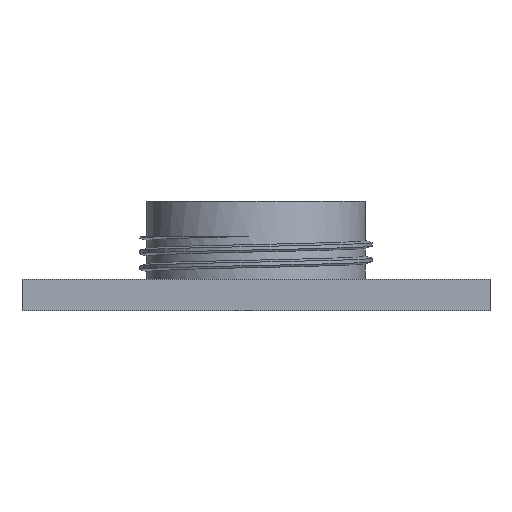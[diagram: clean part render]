
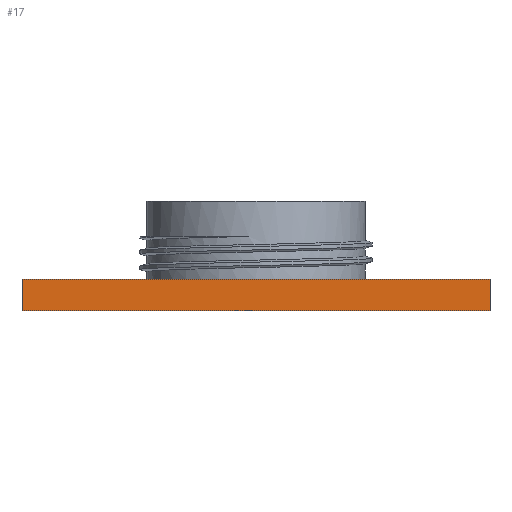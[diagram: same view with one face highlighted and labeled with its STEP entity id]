
A CAD part, left-side view. The second image highlights one B-rep face of the part: STEP entity #17.
In plain terms, the highlighted planar face has unit normal (-1, 0, 0).
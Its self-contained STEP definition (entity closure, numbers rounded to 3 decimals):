
#17 = ADVANCED_FACE('',(#18),#32,.F.);
#18 = FACE_BOUND('',#19,.F.);
#19 = EDGE_LOOP('',(#20,#55,#83,#111));
#20 = ORIENTED_EDGE('',*,*,#21,.F.);
#21 = EDGE_CURVE('',#22,#24,#26,.T.);
#22 = VERTEX_POINT('',#23);
#23 = CARTESIAN_POINT('',(-30.,-30.,0.));
#24 = VERTEX_POINT('',#25);
#25 = CARTESIAN_POINT('',(-30.,-30.,4.));
#26 = SURFACE_CURVE('',#27,(#31,#43),.PCURVE_S1.);
#27 = LINE('',#28,#29);
#28 = CARTESIAN_POINT('',(-30.,-30.,0.));
#29 = VECTOR('',#30,1.);
#30 = DIRECTION('',(0.,0.,1.));
#31 = PCURVE('',#32,#37);
#32 = PLANE('',#33);
#33 = AXIS2_PLACEMENT_3D('',#34,#35,#36);
#34 = CARTESIAN_POINT('',(-30.,-30.,0.));
#35 = DIRECTION('',(1.,0.,0.));
#36 = DIRECTION('',(0.,0.,1.));
#37 = DEFINITIONAL_REPRESENTATION('',(#38),#42);
#38 = LINE('',#39,#40);
#39 = CARTESIAN_POINT('',(0.,0.));
#40 = VECTOR('',#41,1.);
#41 = DIRECTION('',(1.,0.));
#42 = ( GEOMETRIC_REPRESENTATION_CONTEXT(2) 
PARAMETRIC_REPRESENTATION_CONTEXT() REPRESENTATION_CONTEXT('2D SPACE',''
  ) );
#43 = PCURVE('',#44,#49);
#44 = PLANE('',#45);
#45 = AXIS2_PLACEMENT_3D('',#46,#47,#48);
#46 = CARTESIAN_POINT('',(-30.,-30.,0.));
#47 = DIRECTION('',(0.,1.,0.));
#48 = DIRECTION('',(0.,0.,1.));
#49 = DEFINITIONAL_REPRESENTATION('',(#50),#54);
#50 = LINE('',#51,#52);
#51 = CARTESIAN_POINT('',(0.,0.));
#52 = VECTOR('',#53,1.);
#53 = DIRECTION('',(1.,0.));
#54 = ( GEOMETRIC_REPRESENTATION_CONTEXT(2) 
PARAMETRIC_REPRESENTATION_CONTEXT() REPRESENTATION_CONTEXT('2D SPACE',''
  ) );
#55 = ORIENTED_EDGE('',*,*,#56,.T.);
#56 = EDGE_CURVE('',#22,#57,#59,.T.);
#57 = VERTEX_POINT('',#58);
#58 = CARTESIAN_POINT('',(-30.,30.,0.));
#59 = SURFACE_CURVE('',#60,(#64,#71),.PCURVE_S1.);
#60 = LINE('',#61,#62);
#61 = CARTESIAN_POINT('',(-30.,-30.,0.));
#62 = VECTOR('',#63,1.);
#63 = DIRECTION('',(0.,1.,0.));
#64 = PCURVE('',#32,#65);
#65 = DEFINITIONAL_REPRESENTATION('',(#66),#70);
#66 = LINE('',#67,#68);
#67 = CARTESIAN_POINT('',(0.,0.));
#68 = VECTOR('',#69,1.);
#69 = DIRECTION('',(0.,-1.));
#70 = ( GEOMETRIC_REPRESENTATION_CONTEXT(2) 
PARAMETRIC_REPRESENTATION_CONTEXT() REPRESENTATION_CONTEXT('2D SPACE',''
  ) );
#71 = PCURVE('',#72,#77);
#72 = PLANE('',#73);
#73 = AXIS2_PLACEMENT_3D('',#74,#75,#76);
#74 = CARTESIAN_POINT('',(-30.,-30.,0.));
#75 = DIRECTION('',(0.,0.,1.));
#76 = DIRECTION('',(1.,0.,0.));
#77 = DEFINITIONAL_REPRESENTATION('',(#78),#82);
#78 = LINE('',#79,#80);
#79 = CARTESIAN_POINT('',(0.,0.));
#80 = VECTOR('',#81,1.);
#81 = DIRECTION('',(0.,1.));
#82 = ( GEOMETRIC_REPRESENTATION_CONTEXT(2) 
PARAMETRIC_REPRESENTATION_CONTEXT() REPRESENTATION_CONTEXT('2D SPACE',''
  ) );
#83 = ORIENTED_EDGE('',*,*,#84,.T.);
#84 = EDGE_CURVE('',#57,#85,#87,.T.);
#85 = VERTEX_POINT('',#86);
#86 = CARTESIAN_POINT('',(-30.,30.,4.));
#87 = SURFACE_CURVE('',#88,(#92,#99),.PCURVE_S1.);
#88 = LINE('',#89,#90);
#89 = CARTESIAN_POINT('',(-30.,30.,0.));
#90 = VECTOR('',#91,1.);
#91 = DIRECTION('',(0.,0.,1.));
#92 = PCURVE('',#32,#93);
#93 = DEFINITIONAL_REPRESENTATION('',(#94),#98);
#94 = LINE('',#95,#96);
#95 = CARTESIAN_POINT('',(0.,-60.));
#96 = VECTOR('',#97,1.);
#97 = DIRECTION('',(1.,0.));
#98 = ( GEOMETRIC_REPRESENTATION_CONTEXT(2) 
PARAMETRIC_REPRESENTATION_CONTEXT() REPRESENTATION_CONTEXT('2D SPACE',''
  ) );
#99 = PCURVE('',#100,#105);
#100 = PLANE('',#101);
#101 = AXIS2_PLACEMENT_3D('',#102,#103,#104);
#102 = CARTESIAN_POINT('',(-30.,30.,0.));
#103 = DIRECTION('',(0.,1.,0.));
#104 = DIRECTION('',(0.,0.,1.));
#105 = DEFINITIONAL_REPRESENTATION('',(#106),#110);
#106 = LINE('',#107,#108);
#107 = CARTESIAN_POINT('',(0.,0.));
#108 = VECTOR('',#109,1.);
#109 = DIRECTION('',(1.,0.));
#110 = ( GEOMETRIC_REPRESENTATION_CONTEXT(2) 
PARAMETRIC_REPRESENTATION_CONTEXT() REPRESENTATION_CONTEXT('2D SPACE',''
  ) );
#111 = ORIENTED_EDGE('',*,*,#112,.F.);
#112 = EDGE_CURVE('',#24,#85,#113,.T.);
#113 = SURFACE_CURVE('',#114,(#118,#125),.PCURVE_S1.);
#114 = LINE('',#115,#116);
#115 = CARTESIAN_POINT('',(-30.,-30.,4.));
#116 = VECTOR('',#117,1.);
#117 = DIRECTION('',(0.,1.,0.));
#118 = PCURVE('',#32,#119);
#119 = DEFINITIONAL_REPRESENTATION('',(#120),#124);
#120 = LINE('',#121,#122);
#121 = CARTESIAN_POINT('',(4.,0.));
#122 = VECTOR('',#123,1.);
#123 = DIRECTION('',(0.,-1.));
#124 = ( GEOMETRIC_REPRESENTATION_CONTEXT(2) 
PARAMETRIC_REPRESENTATION_CONTEXT() REPRESENTATION_CONTEXT('2D SPACE',''
  ) );
#125 = PCURVE('',#126,#131);
#126 = PLANE('',#127);
#127 = AXIS2_PLACEMENT_3D('',#128,#129,#130);
#128 = CARTESIAN_POINT('',(-30.,-30.,4.));
#129 = DIRECTION('',(0.,0.,1.));
#130 = DIRECTION('',(1.,0.,0.));
#131 = DEFINITIONAL_REPRESENTATION('',(#132),#136);
#132 = LINE('',#133,#134);
#133 = CARTESIAN_POINT('',(0.,0.));
#134 = VECTOR('',#135,1.);
#135 = DIRECTION('',(0.,1.));
#136 = ( GEOMETRIC_REPRESENTATION_CONTEXT(2) 
PARAMETRIC_REPRESENTATION_CONTEXT() REPRESENTATION_CONTEXT('2D SPACE',''
  ) );
